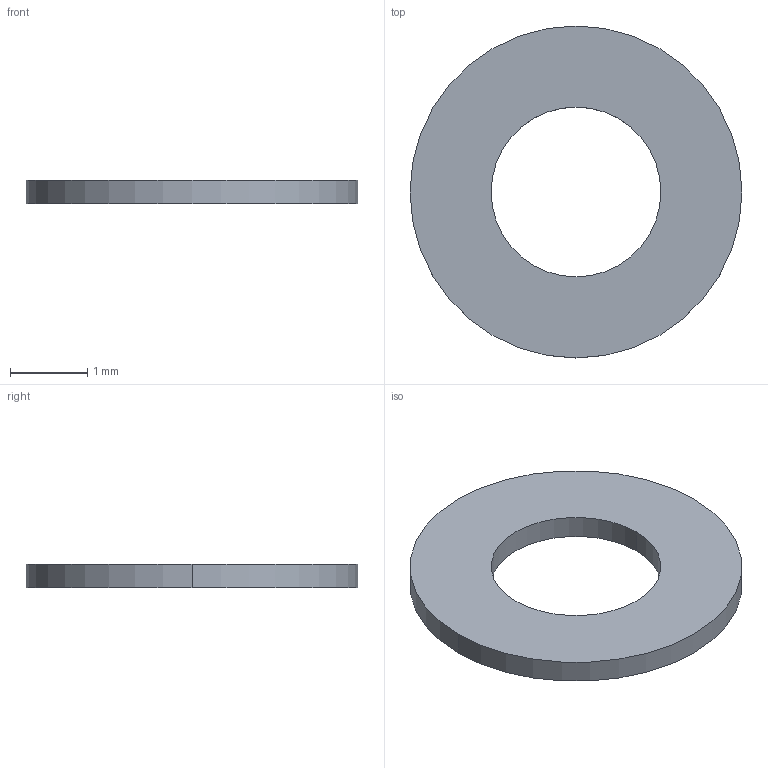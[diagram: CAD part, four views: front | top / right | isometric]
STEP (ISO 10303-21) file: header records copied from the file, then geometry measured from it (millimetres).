
FILE_DESCRIPTION (( 'STEP AP214' ), '1' );
FILE_NAME ('ワッシャ M2.STEP', '2024-06-18T04:22:34', ( '' ), ( '' ), 'SwSTEP 2.0', 'SolidWorks 2023', '' );
FILE_SCHEMA (( 'AUTOMOTIVE_DESIGN' ));
Length unit declared in the file: millimetre
Products named in the file (1): ワッシャ M2
Bounding box: 4.3 x 4.3 x 0.3 mm (x, y, z)
Volume: 3.2 mm3; surface area: 27.6 mm2
Topology: 1 solids, 1 shells, 6 faces, 12 edges, 8 vertices
Faces by surface type: cylinder 4, plane 2
Entity records: 191 total; most frequent: DIRECTION 34, CARTESIAN_POINT 27, ORIENTED_EDGE 24, AXIS2_PLACEMENT_3D 15, EDGE_CURVE 12, CIRCLE 8, EDGE_LOOP 8, VERTEX_POINT 8
